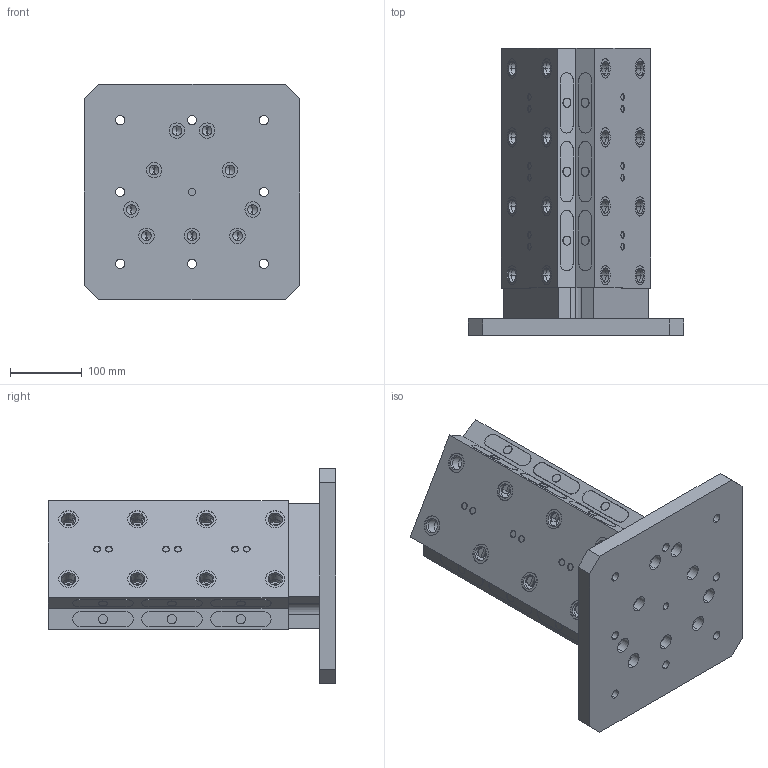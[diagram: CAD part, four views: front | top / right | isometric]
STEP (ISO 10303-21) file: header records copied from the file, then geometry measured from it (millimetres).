
FILE_DESCRIPTION (( 'STEP AP214' ), '1' );
FILE_NAME ('D_RL96A-3003.STEP', '2020-03-11T17:36:17', ( '' ), ( '' ), 'SwSTEP 2.0', 'SolidWorks 2018', '' );
FILE_SCHEMA (( 'AUTOMOTIVE_DESIGN' ));
Length unit declared in the file: millimetre
Products named in the file (3): D_RL96A-3003; D_RL96A-3003T; D_RL96A-3003B
Assembly tree (2 placements, depth 2):
  D_RL96A-3003
    D_RL96A-3003B
    D_RL96A-3003T
Bounding box: 300 x 400 x 300 mm (x, y, z)
Volume: 9961022.8 mm3; surface area: 820491.5 mm2
Topology: 2 solids, 2 shells, 1215 faces, 2966 edges, 1930 vertices
Faces by surface type: cylinder 726, plane 431, cone 58
Entity records: 44354 total; most frequent: CARTESIAN_POINT 10604, DIRECTION 6678, ORIENTED_EDGE 5820, EDGE_CURVE 2910, AXIS2_PLACEMENT_3D 2728, VERTEX_POINT 1930, EDGE_LOOP 1552, CIRCLE 1508
